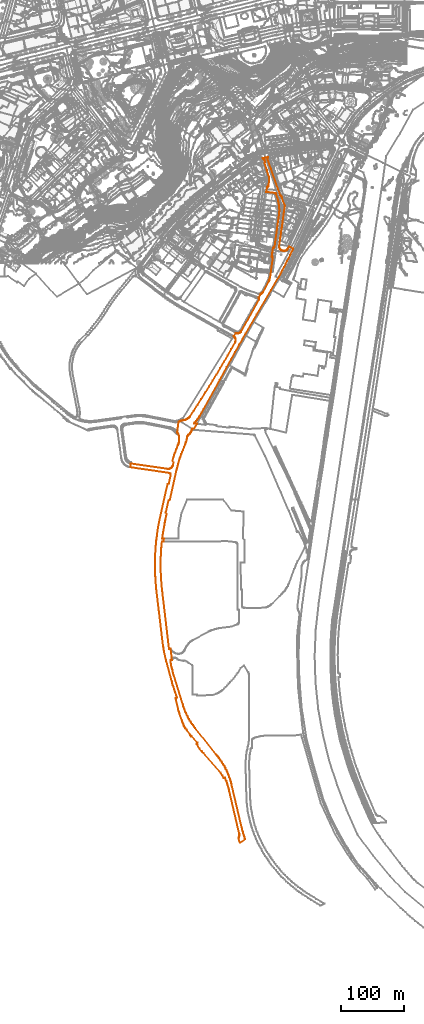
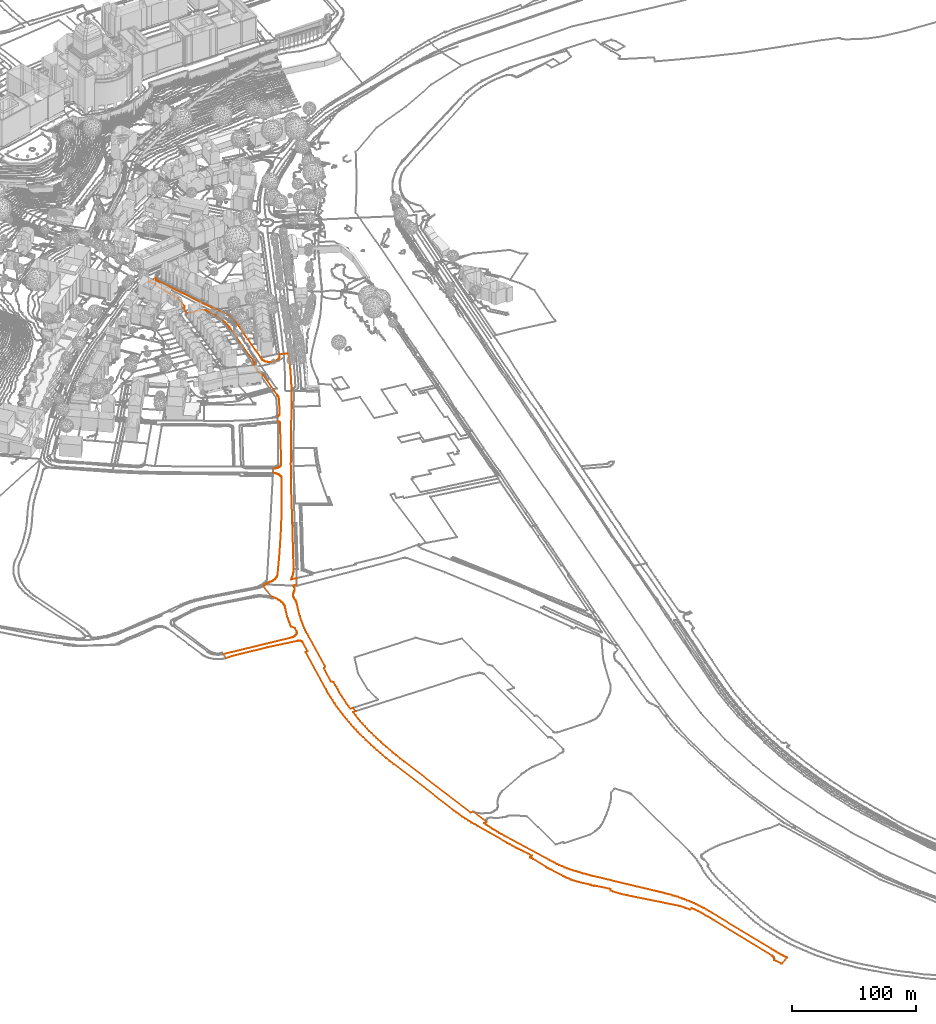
# Not in any storey, part 95 of 477: 1 civil element.
"""IFC4 model written with IfcOpenShell, lengths in metres."""

from ifc_helpers import new_model, entity, si_unit, frame, origin_with_axes, place, context, subcontext, project, spatial, element, save


model = new_model("IFC4")

# Units and contexts
model_context = context("Model", 3, precision=1e-05, world=origin_with_axes())
body_context = subcontext(model_context, "Body", "Model", "MODEL_VIEW")
ifc_project = project(units=[si_unit("AREAUNIT", "SQUARE_METRE"), si_unit("LENGTHUNIT", "METRE")], contexts=[model_context])

# Sites
site_1_placement = place(None, origin_with_axes())
site_1 = spatial("IfcSite", under=ifc_project, at=site_1_placement, Name="Topoexport Site")
site_2_placement = place(site_1_placement, origin_with_axes())
site_2 = spatial("IfcSite", under=site_1, at=site_2_placement, Name="TPX_ROADS_OUTLINES")

# Civil element
civil_element_placement = place(site_2_placement, frame((250.7327320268, -323.2802839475, 503.0217526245), z_axis=(0.0, 0.0, 1.0), x_axis=(1.0, 0.0, 0.0)))
element("IfcCivilElement", 1, at=civil_element_placement, inside=site_2, Name="Roads Outline 144", ObjectType="ROAD", context=body_context, shape_type="GeometricCurveSet", body=[
    entity("IfcGeometricCurveSet", [entity("IfcIndexedPolyCurve", entity("IfcCartesianPointList3D", [[0.0, 0.0, 0.0], [0.6089999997, 5.9269999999, 0.0754022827], [1.0279999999, 5.852, 0.0814504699], [58.662, -2.456, 1.0350574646], [59.4029999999, -2.5120000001, 1.0307382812], [60.1459999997, -2.496, 1.0038594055], [60.8840000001, -2.4100000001, 0.9719209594], [61.6099999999, -2.253, 0.9534591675], [62.318, -2.027, 0.9870787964], [62.9839999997, -1.743, 1.0064166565], [63.6200000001, -1.3970000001, 1.0205805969], [64.2209999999, -0.993, 1.0301362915], [64.7819999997, -0.5350000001, 1.0185077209], [65.2969999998, -0.0260000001, 0.9952943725], [65.7479999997, 0.4909999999, 0.9791730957], [66.1540000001, 1.0429999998, 0.9665103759], [66.5120000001, 1.6269999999, 0.9534329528], [66.8199999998, 2.2389999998, 0.9350382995], [67.077, 2.875, 0.9196895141], [67.2790000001, 3.5299999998, 0.9076254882], [68.2679999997, 7.6939999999, 0.8238203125], [66.4950000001, 10.7849999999, 0.9544482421], [67.3279999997, 13.6359999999, 0.9046990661], [68.2069999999, 16.4739999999, 0.8292970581], [69.1310000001, 19.297, 0.8030718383], [70.0989999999, 22.105, 0.7840436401], [71.1850000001, 25.101, 0.7674746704], [72.3219999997, 28.078, 0.8018181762], [73.5090000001, 31.0349999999, 0.8369807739], [74.747, 33.9719999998, 0.7671002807], [75.1969999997, 34.9959999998, 0.7487805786], [75.6239999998, 36.0289999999, 0.747927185], [76.0069999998, 37.024, 0.7677036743], [76.3689999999, 38.027, 0.786395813], [76.6689999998, 39.1169999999, 0.79965802], [76.909, 40.2209999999, 0.8096629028], [77.0899999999, 41.3359999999, 0.8172082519], [77.2109999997, 42.46, 0.8222523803], [77.2709999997, 43.588, 0.824753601], [77.2709999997, 44.7189999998, 0.824753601], [77.21, 45.8469999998, 0.8222106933], [77.071, 47.0869999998, 0.8164161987], [76.8589999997, 48.3159999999, 0.8075785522], [76.574, 49.531, 0.7956977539], [76.2179999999, 50.727, 0.7785988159], [75.7909999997, 51.899, 0.756550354], [75.2949999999, 53.044, 0.7447909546], [74.7930000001, 53.9989999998, 0.7652276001], [74.236, 54.9239999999, 0.7922532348], [74.0649999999, 55.1869999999, 0.8027737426], [73.8899999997, 55.446, 0.8135403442], [75.9180000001, 71.7529999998, 0.7631080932], [76.7409999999, 72.0219999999, 0.8026594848], [77.5490000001, 72.335, 0.8298203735], [78.3389999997, 72.6909999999, 0.8132093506], [78.7259999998, 72.8839999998, 0.790262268], [79.1069999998, 73.088, 0.7621709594], [79.6239999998, 73.318, 0.7240523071], [80.1489999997, 73.5279999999, 0.685343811], [80.7590000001, 73.7419999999, 0.6400807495], [81.378, 73.9299999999, 0.5938748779], [82.1999999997, 74.1339999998, 0.5169863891], [83.031, 74.2899999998, 0.484538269], [83.8709999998, 74.3979999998, 0.4727125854], [84.7849999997, 74.5189999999, 0.4454348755], [85.6880000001, 74.7, 0.3972992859], [86.5779999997, 74.9399999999, 0.3718504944], [87.4509999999, 75.2379999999, 0.3941297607], [88.301, 75.5919999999, 0.405517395], [89.1269999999, 76.0019999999, 0.3854264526], [89.932, 76.47, 0.3864393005], [90.7039999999, 76.99, 0.4011910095], [91.4399999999, 77.561, 0.4093443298], [92.1359999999, 78.179, 0.4537892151], [92.79, 78.8419999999, 0.4847994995], [93.3989999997, 79.5459999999, 0.5044998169], [93.9589999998, 80.2899999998, 0.4996036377], [99.75, 89.1229999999, 0.2190466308], [105.9010000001, 98.6549999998, 0.0683723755], [112.0060000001, 108.2169999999, -0.1703685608], [118.0619999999, 117.8089999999, -0.2542666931], [124.0719999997, 127.4299999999, -0.3275374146], [130.0329999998, 137.0819999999, -0.6672781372], [136.0179999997, 146.9569999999, -0.5428641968], [141.9499999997, 156.8629999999, -0.6166635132], [147.8309999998, 166.7999999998, -0.6898465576], [153.659, 176.7679999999, -0.8723857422], [159.4339999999, 186.7659999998, -0.9458170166], [165.1569999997, 196.7949999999, -0.8961129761], [165.4199999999, 197.2949999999, -0.8744023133], [165.6489999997, 197.811, -0.8746980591], [165.6859999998, 197.9049999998, -0.8751260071], [165.9069999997, 198.5589999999, -0.8776821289], [166.0719999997, 199.2289999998, -0.8795905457], [166.1799999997, 199.9099999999, -0.8808396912], [166.23, 200.598, -0.8814179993], [166.2220000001, 201.2879999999, -0.88132547], [166.156, 201.9749999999, -0.8805621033], [166.0219999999, 202.7, -0.8790122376], [165.8219999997, 203.4109999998, -0.8766990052], [165.5579999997, 204.0989999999, -0.8736455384], [165.2319999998, 204.7609999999, -0.8899217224], [164.8459999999, 205.3899999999, -0.9217860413], [164.4699999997, 205.9039999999, -0.9528248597], [164.0549999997, 206.3869999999, -0.9675640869], [163.6030000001, 206.8369999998, -0.9822546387], [163.1170000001, 207.2489999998, -0.9915238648], [166.2889999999, 212.3639999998, -0.8821004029], [166.835, 212.1029999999, -0.9133499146], [167.4029999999, 211.8939999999, -0.9562341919], [167.9869999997, 211.7379999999, -0.9623494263], [168.5839999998, 211.6369999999, -0.9629581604], [169.1869999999, 211.591, -0.9548060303], [169.7919999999, 211.602, -0.9486706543], [170.5069999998, 211.6949999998, -0.9442960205], [171.2080000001, 211.862, -0.9511631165], [171.8879999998, 212.101, -0.9421826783], [172.5389999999, 212.409, -0.9279118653], [173.091, 212.74, -0.9275581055], [173.6099999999, 213.1209999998, -0.9263543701], [174.0919999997, 213.548, -0.9235007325], [174.5319999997, 214.0179999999, -0.9199319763], [174.9269999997, 214.5259999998, -0.9132176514], [175.273, 215.0689999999, -0.9073362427], [203.0669999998, 265.2729999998, -1.1181292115], [203.2119999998, 265.6269999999, -1.1176601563], [203.2999999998, 266.0, -1.1173754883], [203.3289999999, 266.3809999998, -1.1172816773], [203.2999999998, 266.7629999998, -1.1173754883], [203.2119999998, 267.135, -1.1176601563], [203.0649999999, 267.4959999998, -1.1181356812], [202.8629999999, 267.8289999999, -1.1187891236], [202.611, 268.1269999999, -1.1196043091], [205.7169999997, 274.0589999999, -1.1447406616], [205.969, 274.1229999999, -1.1526310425], [206.2179999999, 274.199, -1.1604274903], [206.824, 274.436, -1.1538754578], [207.4010000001, 274.7389999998, -1.1330796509], [207.9399999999, 275.1029999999, -1.1215388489], [208.4359999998, 275.5249999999, -1.1115637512], [208.8829999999, 275.9989999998, -1.1157402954], [209.2739999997, 276.5189999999, -1.1196302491], [209.6059999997, 277.0789999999, -1.1180542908], [218.3539999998, 293.2319999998, -0.9840996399], [218.773, 294.0569999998, -0.9883156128], [219.1609999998, 294.8979999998, -0.9934900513], [219.4439999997, 295.5689999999, -0.9972641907], [219.7080000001, 296.2479999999, -1.0019567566], [220.054, 297.3259999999, -1.0081127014], [220.3500000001, 298.419, -1.0133790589], [220.608, 299.578, -1.0200734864], [220.8100000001, 300.7489999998, -1.0262750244], [224.8589999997, 329.0659999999, -1.0805807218], [224.8819999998, 329.686, -1.0919809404], [224.8369999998, 330.3049999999, -1.0969040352], [224.7250000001, 330.916, -1.0985042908], [224.5660000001, 331.4539999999, -1.0925727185], [224.355, 331.973, -1.0795341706], [224.094, 332.4689999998, -1.0712834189], [223.7849999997, 332.9369999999, -1.072486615], [223.4309999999, 333.372, -1.0816009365], [223.415, 333.3899999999, -1.0809419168], [224.202, 338.7589999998, -1.0156777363], [225.2919999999, 346.5289999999, -1.063884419], [225.6510000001, 346.6649999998, -1.0573216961], [225.9950000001, 346.8369999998, -1.0469360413], [226.432, 347.1239999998, -1.0360997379], [226.8249999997, 347.4679999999, -1.0419511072], [227.1680000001, 347.862, -1.0447557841], [227.4539999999, 348.2999999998, -1.0509514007], [227.6769999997, 348.7719999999, -1.0597911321], [227.8339999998, 349.2709999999, -1.0666673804], [234.9339999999, 399.956, -1.1216586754], [235.1409999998, 401.7579999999, -1.1354166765], [235.2879999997, 403.5649999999, -1.0936275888], [235.3729999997, 405.3769999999, -1.1238806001], [235.3969999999, 407.2879999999, -1.1088173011], [235.3530000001, 409.1979999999, -1.1175404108], [235.2409999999, 411.1059999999, -1.1023313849], [235.077, 412.9889999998, -1.0541356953], [234.8530000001, 414.8659999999, -1.0503616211], [234.5689999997, 416.7349999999, -1.1255533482], [234.2029999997, 418.7079999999, -1.0887190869], [233.7709999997, 420.6669999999, -1.0796380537], [233.2719999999, 422.6109999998, -1.0521337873], [232.7069999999, 424.5359999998, -1.0280821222], [230.2169999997, 431.9319999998, -0.9969240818], [230.068, 432.281, -0.9835626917], [229.8659999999, 432.602, -0.9720500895], [229.6159999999, 432.8879999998, -0.9646665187], [229.281, 433.162, -0.9570136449], [228.9019999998, 433.3709999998, -0.9530663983], [228.4909999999, 433.5079999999, -0.9532704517], [214.7569999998, 435.2559999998, -0.4226311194], [216.1200000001, 443.101, -0.7738301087], [216.1310000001, 443.2409999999, -0.7807222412], [216.4959999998, 443.3019999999, -0.7921222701], [216.8429999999, 443.4279999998, -0.7971454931], [217.2399999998, 443.6899999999, -0.815292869], [217.6089999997, 443.9919999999, -0.8286550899], [217.9010000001, 444.284, -0.8258739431], [218.1659999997, 444.5999999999, -0.8281408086], [218.361, 444.956, -0.8387722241], [218.4959999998, 445.338, -0.8501479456], [219.1540000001, 455.575, -0.7746914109], [219.2209999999, 456.1839999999, -0.7816554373], [219.2409999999, 456.7959999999, -0.7831922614], [219.2139999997, 457.4079999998, -0.7740381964], [219.1379999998, 458.0299999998, -0.762673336], [219.014, 458.6439999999, -0.7655169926], [218.841, 459.247, -0.7639709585], [216.1459999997, 468.2279999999, -0.59060311], [216.0049999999, 468.7559999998, -0.5857366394], [215.8559999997, 469.281, -0.5852750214], [215.676, 469.8739999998, -0.5879291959], [215.486, 470.4639999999, -0.5966083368], [212.1379999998, 480.5919999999, -0.3817512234], [213.2089999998, 482.9919999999, -0.4000298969], [212.2590000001, 485.199, -0.3234551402], [211.9720000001, 485.818, -0.3072439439], [211.6299999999, 486.409, -0.300604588], [211.2369999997, 486.966, -0.2943203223], [210.7949999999, 487.4859999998, -0.300712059], [210.3079999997, 487.9649999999, -0.3191077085], [209.7799999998, 488.3969999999, -0.3192279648], [209.2149999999, 488.7799999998, -0.3512001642], [209.2629999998, 488.7899999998, -0.3502422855], [217.486, 490.551, -0.3494161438], [217.2579999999, 489.8459999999, -0.362739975], [217.0959999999, 489.1229999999, -0.3825592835], [217.0019999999, 488.3879999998, -0.3878377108], [216.977, 487.6469999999, -0.4007877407], [217.02, 486.9079999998, -0.4246620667], [217.1319999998, 486.1749999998, -0.4260117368], [222.2229999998, 471.3369999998, -0.6257056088], [236.926, 430.031, -0.8896589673], [237.1939999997, 429.595, -0.894051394], [237.5049999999, 429.1879999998, -0.9160768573], [237.8559999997, 428.8159999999, -0.9177154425], [238.1969999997, 428.517, -0.9411168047], [238.5630000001, 428.2489999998, -0.9805292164], [238.9509999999, 428.0149999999, -0.9837833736], [239.0699999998, 427.6779999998, -0.992223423], [239.4979999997, 426.4669999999, -0.9825825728], [244.077, 413.5109999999, -0.9954453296], [242.8810000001, 405.0619999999, -0.9282232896], [242.8369999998, 404.75, -0.91927626], [242.7930000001, 404.436, -0.9112881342], [242.3059999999, 400.99, -0.6668504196], [241.1159999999, 392.5699999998, -0.9397642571], [240.5600000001, 388.6229999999, -0.9137257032], [239.3649999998, 380.1199999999, -0.8136760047], [238.1639999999, 371.71, -0.8242163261], [236.9069999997, 362.7789999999, -0.7022085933], [235.5929999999, 353.4399999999, -0.8702210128], [235.1259999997, 350.774, -0.9699372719], [235.051, 350.031, -0.9592454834], [235.051, 349.284, -0.9375545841], [235.1229999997, 348.541, -0.9332702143], [235.2689999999, 347.8089999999, -0.9451486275], [235.4869999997, 347.0939999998, -0.9311778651], [235.773, 346.4049999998, -0.9322975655], [236.1269999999, 345.747, -0.9449380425], [236.5430000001, 345.1279999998, -0.9517109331], [237.0189999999, 344.5519999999, -0.9510083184], [237.5149999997, 344.0529999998, -0.9646750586], [238.0559999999, 343.602, -0.9313166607], [238.6370000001, 343.2039999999, -0.9310157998], [239.253, 342.8629999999, -0.9603233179], [239.898, 342.5799999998, -0.9471604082], [240.5660000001, 342.3589999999, -0.937072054], [241.253, 342.2019999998, -0.9206677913], [241.9509999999, 342.1099999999, -0.9033338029], [242.6540000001, 342.0829999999, -0.8948549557], [243.3569999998, 342.1229999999, -0.9022784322], [244.0549999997, 342.2289999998, -0.8665150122], [244.7390000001, 342.399, -0.8440741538], [245.4049999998, 342.6339999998, -0.8298754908], [246.0449999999, 342.929, -0.8068312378], [246.656, 343.284, -0.7854354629], [247.23, 343.6939999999, -0.7693529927], [247.7629999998, 344.156, -0.7659594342], [248.25, 344.6669999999, -0.7513059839], [248.6869999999, 345.2209999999, -0.748161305], [249.0699999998, 345.8129999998, -0.7455939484], [249.3959999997, 346.439, -0.7480919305], [250.5719999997, 348.8929999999, -0.7438902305], [250.6179999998, 348.8709999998, -0.7414438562], [257.3459999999, 345.6239999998, -0.5987720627], [256.1629999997, 343.1439999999, -0.5906061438], [254.9729999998, 340.6679999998, -0.5814349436], [252.4469999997, 335.4579999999, -0.5496344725], [249.8819999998, 330.2679999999, -0.5820043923], [247.5669999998, 325.6629999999, -0.6076234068], [245.2220000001, 321.0729999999, -0.616256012], [242.648, 316.2019999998, -0.5508850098], [240.0460000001, 311.3459999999, -0.5851612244], [237.466, 306.5969999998, -0.5100243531], [234.858, 301.8639999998, -0.5029374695], [222.173, 279.885, -1.0646764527], [199.5179999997, 241.281, -0.9961474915], [182.037, 211.4369999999, -1.0958165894], [177.0460000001, 202.716, -0.9505675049], [172.085, 193.9779999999, -0.9371566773], [165.3939999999, 182.0799999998, -0.8765486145], [158.7590000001, 170.1499999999, -0.9359705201], [152.1799999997, 158.1899999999, -0.8054878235], [141.0389999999, 138.0599999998, -0.6053328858], [115.6889999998, 92.4239999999, -0.2272036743], [112.611, 86.8609999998, -0.1941641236], [109.5189999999, 81.3059999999, -0.048467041], [108.4959999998, 79.5989999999, 0.0096857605], [107.4180000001, 77.926, 0.0295361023], [106.2859999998, 76.2889999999, 0.0561648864], [105.102, 74.6899999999, 0.0884626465], [103.9649999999, 73.2519999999, 0.0972280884], [102.7849999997, 71.8489999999, 0.1040615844], [101.5649999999, 70.4819999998, 0.1312686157], [100.304, 69.1509999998, 0.1950728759], [105.1009999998, 68.7749999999, 0.0884790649], [100.6829999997, 61.014, 0.1759701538], [97.2379999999, 60.9009999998, 0.366517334], [97.2119999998, 60.6169999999, 0.3678582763], [97.0979999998, 59.777, 0.3737377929], [96.929, 58.946, 0.3824539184], [96.7050000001, 58.1279999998, 0.3940066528], [96.4279999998, 57.3269999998, 0.4082503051], [96.0989999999, 56.5449999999, 0.4243950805], [95.7199999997, 55.787, 0.4429934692], [95.2250000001, 54.953, 0.4646456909], [94.6680000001, 54.1579999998, 0.4852986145], [94.054, 53.4079999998, 0.4984236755], [93.3840000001, 52.706, 0.5040145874], [92.6639999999, 52.0559999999, 0.4807235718], [92.0619999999, 51.5449999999, 0.4490354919], [91.5079999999, 50.983, 0.4134468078], [91.0049999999, 50.3729999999, 0.4045254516], [90.5589999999, 49.7219999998, 0.3995847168], [90.173, 49.0329999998, 0.3920215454], [89.855, 48.3259999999, 0.3846557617], [89.6000000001, 47.5939999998, 0.378749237], [89.409, 46.8419999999, 0.3763213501], [89.2849999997, 46.0769999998, 0.3803250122], [89.2280000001, 45.304, 0.3821654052], [88.8359999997, 43.5939999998, 0.3948221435], [88.3959999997, 41.8959999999, 0.4067901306], [87.9099999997, 40.21, 0.4002790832], [87.4369999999, 38.7209999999, 0.3938445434], [86.9279999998, 37.2449999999, 0.3808119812], [86.3819999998, 35.781, 0.370846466], [84.8689999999, 32.1529999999, 0.4404873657], [82.8559999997, 27.3219999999, 0.4872619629], [81.5389999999, 23.9809999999, 0.5799234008], [80.2719999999, 20.6209999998, 0.6762749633], [79.0519999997, 17.2579999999, 0.7662261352], [77.889, 13.8729999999, 0.8226713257], [76.7849999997, 10.47, 0.8044937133], [75.8470000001, 7.4509999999, 0.7594419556], [74.966, 4.4149999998, 0.7581846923], [74.1429999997, 1.3629999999, 0.7979749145], [73.3929999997, -1.6390000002, 0.8391552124], [72.699, -4.6540000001, 0.815625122], [72.0600000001, -7.6810000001, 0.7907522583], [62.2289999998, -51.5040000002, 0.9828526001], [60.1579999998, -52.811, 1.0034034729], [55.8959999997, -71.635, 0.9015663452], [57.2029999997, -73.8800000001, 0.9916503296], [56.398, -77.3860000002, 0.918663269], [55.6340000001, -80.9010000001, 0.8926432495], [54.909, -84.425, 0.8438897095], [54.2569999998, -87.7820000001, 0.8090531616], [53.6399999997, -91.145, 0.8149467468], [53.0600000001, -94.5150000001, 0.8161161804], [52.173, -99.6310000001, 0.8470249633], [51.321, -104.753, 0.9458084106], [50.8019999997, -108.6710000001, 1.0006100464], [50.3189999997, -112.5930000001, 1.039947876], [52.8509999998, -112.577, 0.8157398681], [52.281, -117.5490000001, 0.8343126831], [49.7620000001, -117.561, 1.0472061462], [49.2609999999, -122.557, 1.0527800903], [48.8160000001, -127.5590000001, 1.0562702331], [48.5179999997, -131.6120000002, 1.0586074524], [48.2679999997, -135.6680000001, 1.0594716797], [48.0639999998, -139.7270000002, 1.0598078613], [47.9189999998, -143.4640000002, 1.0600468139], [47.8149999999, -147.202, 1.0602182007], [47.753, -150.9410000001, 1.0603203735], [47.75, -154.4210000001, 1.0603253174], [47.7909999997, -157.9000000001, 1.0602577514], [47.875, -161.3790000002, 1.0601193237], [48.0079999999, -165.537, 1.0599001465], [48.1899999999, -169.6930000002, 1.0596002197], [48.4189999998, -173.8470000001, 1.0592228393], [48.7109999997, -178.405, 1.05709375], [49.0529999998, -182.959, 1.054411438], [49.4439999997, -187.5090000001, 1.0513448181], [49.9720000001, -192.9270000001, 1.044469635], [50.5669999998, -198.338, 1.0254238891], [61.1030000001, -287.0720000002, 0.9616553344], [63.5839999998, -286.777, 1.0200082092], [65.7069999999, -304.8150000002, 0.9804518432], [63.2289999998, -305.051, 1.012465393], [63.4329999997, -306.9310000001, 1.0175018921], [63.6869999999, -308.804, 1.021645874], [64.057, -311.0420000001, 1.0275287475], [64.4979999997, -313.267, 1.0313088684], [65.0499999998, -315.7320000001, 1.0064277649], [65.6399999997, -318.1880000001, 0.9825415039], [66.267, -320.6340000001, 0.9629860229], [66.9849999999, -323.2580000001, 0.925184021], [67.7459999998, -325.8690000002, 0.8706868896], [68.5490000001, -328.4680000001, 0.8071924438], [82.8530000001, -375.007, 0.4873086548], [83.4720000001, -377.1040000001, 0.4777536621], [84.1340000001, -379.1870000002, 0.4693897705], [84.8399999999, -381.2560000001, 0.4421954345], [85.5889999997, -383.3100000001, 0.4010728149], [86.5779999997, -385.8320000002, 0.3718504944], [87.6329999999, -388.327, 0.3965680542], [88.753, -390.794, 0.3975020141], [89.977, -393.344, 0.3874816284], [91.264, -395.8640000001, 0.4073946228], [92.611, -398.351, 0.4790090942], [93.7399999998, -400.213, 0.502323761], [94.9249999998, -402.0410000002, 0.4757693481], [96.1629999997, -403.8320000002, 0.4212544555], [97.4550000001, -405.5860000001, 0.3552807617], [99.0329999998, -407.7490000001, 0.2600697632], [100.6529999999, -409.8810000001, 0.1776089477], [102.3130000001, -411.9810000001, 0.112093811], [135.5819999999, -454.115, -0.5374354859], [136.898, -455.7780000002, -0.5538212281], [138.2050000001, -457.4480000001, -0.5700717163], [139.1740000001, -458.7050000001, -0.5821295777], [140.139, -459.9650000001, -0.5941449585], [141.452, -461.6670000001, -0.6104628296], [142.727, -463.398, -0.6263380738], [143.963, -465.1580000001, -0.6417277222], [145.159, -466.9440000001, -0.6565975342], [146.3019999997, -468.733, -0.6708204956], [147.4049999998, -470.5460000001, -0.6845541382], [148.4679999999, -472.3830000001, -0.6977592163], [149.4909999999, -474.243, -0.7104967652], [150.1349999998, -475.483, -0.7185153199], [150.7709999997, -476.7270000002, -0.740541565], [151.6949999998, -478.574, -0.7874157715], [152.6599999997, -480.6020000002, -0.8278483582], [153.5819999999, -482.649, -0.8727640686], [154.4609999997, -484.7140000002, -0.8687123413], [155.298, -486.7980000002, -0.8785720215], [156.298, -489.4740000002, -0.8968076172], [157.2259999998, -492.176, -0.9095668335], [158.0830000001, -494.902, -0.924496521], [158.8659999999, -497.6240000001, -0.9375313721], [159.5789999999, -500.365, -0.9468771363], [160.2220000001, -503.1230000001, -0.9511941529], [176.2819999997, -570.939, -0.9153194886], [176.7420000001, -572.8620000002, -0.9338126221], [177.2339999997, -574.777, -0.9609290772], [177.7280000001, -576.5790000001, -0.9723769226], [178.2489999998, -578.3740000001, -0.9720430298], [178.7849999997, -580.162, -1.0031491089], [179.3399999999, -581.9450000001, -1.0541302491], [179.7629999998, -583.2620000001, -1.0807583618], [180.1939999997, -584.5760000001, -1.1037762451], [180.6809999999, -585.9340000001, -1.1177500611], [181.199, -587.2810000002, -1.1189989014], [181.318, -587.588, -1.1192857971], [181.4389999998, -587.895, -1.1195775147], [173.514, -593.3430000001, -0.9269227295], [173.2790000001, -593.3180000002, -0.9274376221], [173.0439999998, -593.301, -0.9275882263], [173.037, -593.2810000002, -0.9275927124], [170.6609999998, -586.108, -0.9458046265], [171.0749999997, -585.513, -0.9498602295], [171.432, -584.8830000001, -0.9533574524], [171.7309999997, -584.2220000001, -0.9461881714], [171.9669999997, -583.537, -0.9401671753], [172.1399999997, -582.8330000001, -0.935753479], [172.2519999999, -582.1440000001, -0.9328960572], [172.3059999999, -581.4480000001, -0.9315183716], [172.2999999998, -580.7510000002, -0.9316714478], [172.2339999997, -580.0560000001, -0.9333552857], [172.1099999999, -579.3690000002, -0.9365188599], [156.7879999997, -514.3800000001, -0.9040062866], [156.2119999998, -511.8700000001, -0.8951436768], [155.5979999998, -509.368, -0.883263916], [154.9439999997, -506.8770000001, -0.8744019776], [154.2259999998, -504.3050000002, -0.8695998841], [153.466, -501.7450000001, -0.8733340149], [152.665, -499.1970000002, -0.8281387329], [151.6949999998, -496.29, -0.7874157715], [150.6710000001, -493.402, -0.7349690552], [149.5919999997, -490.534, -0.7117543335], [149.4029999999, -490.05, -0.709401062], [147.327, -491.3030000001, -0.6835829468], [145.2879999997, -487.6330000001, -0.6581997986], [142.5469999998, -482.675, -0.6240968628], [142.514, -482.615, -0.6236859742], [115.537, -452.0310000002, -0.228340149], [112.8899999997, -449.0430000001, -0.1952709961], [112.6569999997, -448.7720000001, -0.1943466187], [108.9709999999, -444.4850000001, -0.0189725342], [105.8659999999, -439.3390000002, 0.0694821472], [105.8149999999, -439.2550000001, 0.0710992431], [104.5660000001, -437.182, 0.0972629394], [104.7080000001, -436.9670000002, 0.0949315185], [105.906, -435.1530000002, 0.0682138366], [96.7450000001, -425.0020000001, 0.3919436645], [96.227, -425.3300000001, 0.4181138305], [94.9869999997, -423.74, 0.473470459], [94.6529999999, -423.3520000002, 0.4858547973], [94.6769999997, -423.1000000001, 0.4849649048], [94.6359999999, -422.851, 0.4864851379], [94.5329999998, -422.621, 0.4903042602], [94.3739999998, -422.4240000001, 0.4944490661], [89.3879999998, -415.8230000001, 0.3769993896], [88.4439999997, -414.5830000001, 0.407433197], [87.5409999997, -413.3120000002, 0.3953355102], [86.682, -412.0120000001, 0.3745133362], [85.8659999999, -410.6840000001, 0.3905145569], [85.0929999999, -409.324, 0.4272940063], [84.3659999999, -407.9400000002, 0.4664586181], [83.6850000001, -406.5320000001, 0.475062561], [83.0519999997, -405.1020000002, 0.4842114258], [82.4580000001, -403.6410000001, 0.4934564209], [81.912, -402.1630000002, 0.5444082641], [81.4129999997, -400.6670000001, 0.591262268], [77.3849999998, -388.932, 0.8295059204], [76.7909999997, -386.9820000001, 0.8047438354], [76.2339999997, -385.0220000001, 0.7794249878], [75.713, -383.051, 0.7525227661], [72.1680000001, -368.3540000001, 0.7953137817], [71.8479999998, -366.9640000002, 0.7817981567], [71.503, -365.5800000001, 0.7672266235], [71.4399999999, -365.3390000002, 0.7648287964], [71.3759999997, -365.0990000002, 0.7654928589], [73.9180000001, -364.2370000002, 0.8118176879], [72.412, -359.801, 0.8056194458], [70.9040000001, -355.365, 0.7703903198], [70.0359999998, -352.9350000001, 0.7856624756], [69.1859999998, -350.4990000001, 0.8026824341], [68.071, -347.2150000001, 0.8415075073], [66.9890000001, -343.9200000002, 0.9249451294], [66.196, -341.2890000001, 0.9652004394], [65.4479999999, -338.6440000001, 0.9885297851], [56.7339999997, -306.2930000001, 0.9474812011], [55.8059999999, -302.703, 0.8985011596], [54.9369999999, -299.0990000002, 0.8461002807], [54.1259999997, -295.4810000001, 0.8103044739], [53.375, -291.8500000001, 0.8166833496], [52.7039999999, -288.3230000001, 0.8154751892], [52.0889999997, -284.7850000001, 0.8569122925], [51.5299999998, -281.2380000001, 0.9227101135], [51.0269999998, -277.6830000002, 0.9768521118], [41.4309999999, -197.1220000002, 1.1789020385], [40.889, -192.209, 1.2073186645], [40.4129999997, -187.29, 1.2327915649], [40.0189999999, -182.5650000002, 1.2598093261], [39.6850000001, -177.8350000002, 1.2827127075], [39.4309999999, -173.7710000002, 1.2995812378], [39.2220000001, -169.7040000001, 1.305717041], [39.057, -165.635, 1.3105610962], [38.9329999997, -161.3860000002, 1.314201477], [38.8569999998, -157.1360000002, 1.3164326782], [38.8289999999, -152.8860000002, 1.3172546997], [38.858, -148.861, 1.3164033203], [38.9339999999, -144.8360000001, 1.3141721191], [39.0589999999, -140.8130000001, 1.3105023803], [39.2390000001, -136.6740000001, 1.3052179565], [39.4699999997, -132.537, 1.2974559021], [39.7539999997, -128.4030000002, 1.2779811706], [40.0789999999, -124.328, 1.2556949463], [40.4529999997, -120.257, 1.2301777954], [40.8739999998, -116.1910000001, 1.2081051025], [41.307, -112.2960000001, 1.1854032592], [41.7760000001, -108.405, 1.1708849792], [42.281, -104.5180000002, 1.1597733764], [42.949, -99.8720000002, 1.142706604], [43.676, -95.2350000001, 1.12601474], [44.4499999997, -90.841, 1.1143000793], [45.2939999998, -86.4600000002, 1.0739906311], [46.0379999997, -82.8030000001, 1.0494239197], [46.8229999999, -79.155, 1.0463257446], [58.727, -26.1870000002, 1.0346785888], [60.7539999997, -25.3940000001, 0.9780147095], [63.642, -12.5680000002, 1.0209303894], [63.7029999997, -12.1670000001, 1.0219002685], [63.71, -11.7620000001, 1.0220115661], [63.6639999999, -11.3590000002, 1.0212801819], [63.5660000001, -10.966, 1.0197220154], [63.4169999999, -10.5890000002, 1.0171068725], [63.2069999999, -10.2150000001, 1.0119222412], [62.9469999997, -9.8740000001, 1.0055031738], [62.642, -9.5730000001, 0.997973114], [62.273, -9.294, 0.9849419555], [61.8640000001, -9.0800000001, 0.9655204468], [61.4219999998, -8.949, 0.9467022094], [60.969, -8.868, 0.9679365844], [58.0109999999, -8.439, 1.0268259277], [35.5600000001, -5.1600000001, 1.3245442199], [3.8799999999, -0.5700000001, 0.6768951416], [0.0, 0.0, 0.0]]))]),
])

save(model, "model.ifc")
